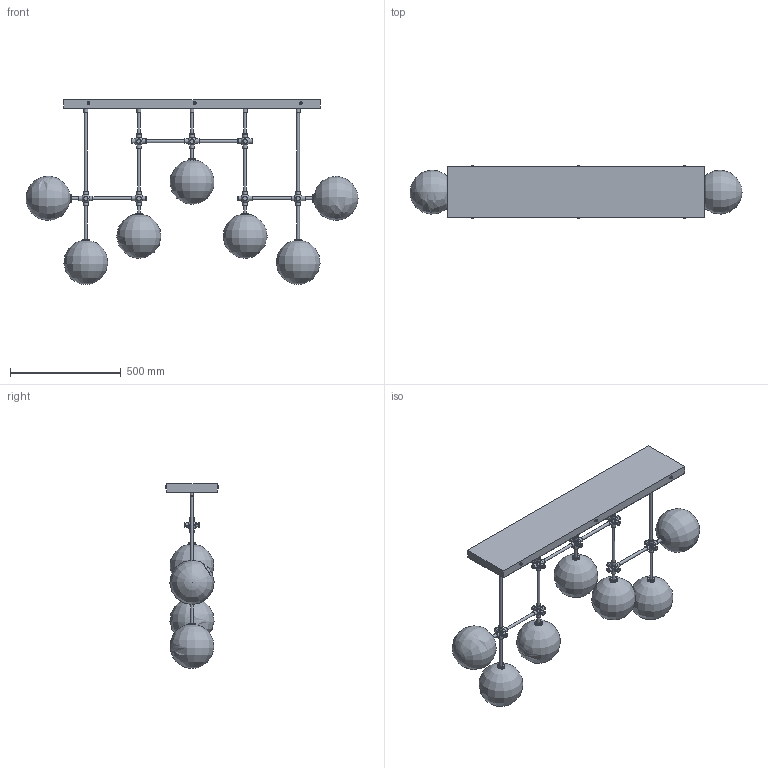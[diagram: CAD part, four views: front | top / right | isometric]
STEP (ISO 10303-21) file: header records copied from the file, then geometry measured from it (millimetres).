
FILE_DESCRIPTION(/* description */ (''),/* implementation_level */ '2;1');
FILE_NAME(/* name */ 'T:\B027 Soap B7 MD\Pliki bryłowe handlowe\B027 Soap B7 MD 3D files_na stronę\B027 Soap B7 MD.stp',/* time_stamp */ '2022-02-02T10:52:12+01:00',/* author */ ('Mariusz Awariusz'),/* organization */ (''),/* preprocessor_version */ 'ST-DEVELOPER v18.1',/* originating_system */ 'Autodesk Inventor 2022',/* authorisation */ '');
FILE_SCHEMA (('AUTOMOTIVE_DESIGN { 1 0 10303 214 3 1 1 }'));
Length unit declared in the file: millimetre
Products named in the file (1): B027 Soap B7 MD_jako część_korpusy br
yłowe
Bounding box: 1501.62 x 240 x 835.69 mm (x, y, z)
Volume: 13211340.8 mm3; surface area: 2687958.7 mm2
Topology: 174 solids, 174 shells, 1332 faces, 2394 edges, 1481 vertices
Faces by surface type: plane 504, cylinder 408, cone 337, torus 39, bspline 31, sphere 13
Full cylindrical faces by diameter (mm): 2.693 x21, 3 x21, 5 x27, 5.5 x21, 6 x6, 11.6 x17, 13 x66, 13.5 x2, 18 x47, 18.917 x42, 20 x102, 25.221 x7, 35 x7
Entity records: 33703 total; most frequent: DIRECTION 6465, CARTESIAN_POINT 6366, ORIENTED_EDGE 4760, AXIS2_PLACEMENT_3D 2807, EDGE_CURVE 2380, EDGE_LOOP 1505, VERTEX_POINT 1481, CIRCLE 1379
